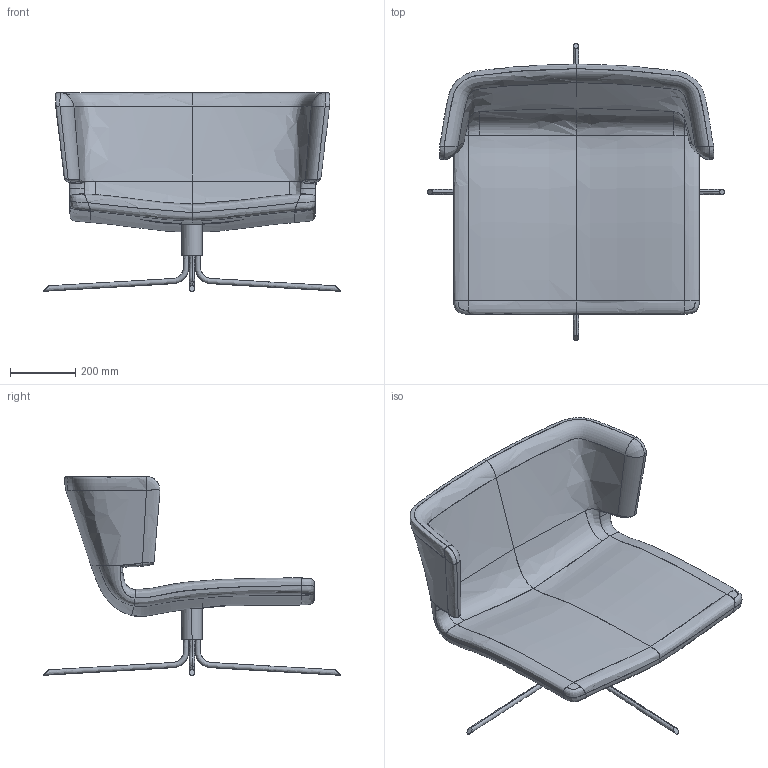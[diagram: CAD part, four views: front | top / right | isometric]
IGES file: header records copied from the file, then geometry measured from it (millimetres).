
Start section: SolidWorks IGES file using NURBS representation for surfaces
Global section: file name: C:\Users\RUBEN\Desktop\VICCARBE_Wrapp_swivel_armchair_3D.IGS; native system: SolidWorks 2009; preprocessor: SolidWorks 2009; author: RUBEN; date: 111006.174327; units: millimetre
Bounding box: 910.01 x 910.01 x 608.58 mm (x, y, z)
Surface area: 2053803.5 mm2 (no closed solid volume)
Topology: 0 solids, 0 shells, 105 faces, 2188 edges, 2176 vertices
Faces by surface type: bspline 105
